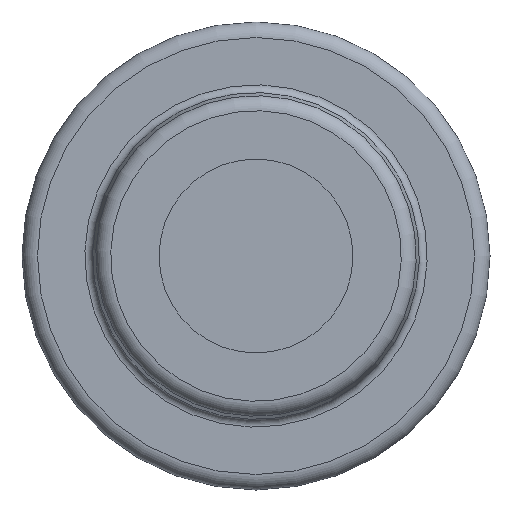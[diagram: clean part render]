
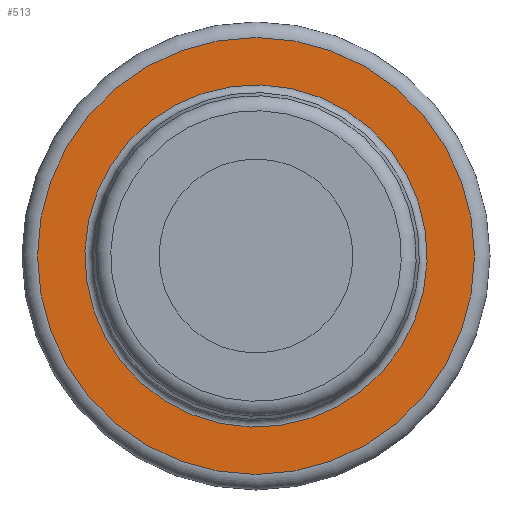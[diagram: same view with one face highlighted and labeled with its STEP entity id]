
A CAD part, left-side view. The second image highlights one B-rep face of the part: STEP entity #513.
In plain terms, the highlighted planar face has unit normal (-1, 0, 0).
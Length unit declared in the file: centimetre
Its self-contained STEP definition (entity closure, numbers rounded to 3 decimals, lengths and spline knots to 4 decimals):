
#143=PLANE('',#550);
#160=VERTEX_POINT('',#735);
#163=VERTEX_POINT('',#743);
#201=CIRCLE('',#546,2.1463);
#204=CIRCLE('',#551,1.6815);
#236=EDGE_CURVE('',#160,#160,#201,.T.);
#239=EDGE_CURVE('',#163,#163,#204,.T.);
#297=ORIENTED_EDGE('',*,*,#239,.F.);
#298=ORIENTED_EDGE('',*,*,#236,.F.);
#411=EDGE_LOOP('',(#297));
#412=EDGE_LOOP('',(#298));
#463=FACE_BOUND('',#411,.T.);
#464=FACE_BOUND('',#412,.T.);
#513=ADVANCED_FACE('',(#463,#464),#143,.T.);
#546=AXIS2_PLACEMENT_3D('',#734,#611,#612);
#550=AXIS2_PLACEMENT_3D('',#741,#619,$);
#551=AXIS2_PLACEMENT_3D('',#742,#620,#621);
#611=DIRECTION('',(1.,0.,0.));
#612=DIRECTION('',(0.,-2.146,0.));
#619=DIRECTION('',(-1.,0.,0.));
#620=DIRECTION('',(-1.,0.,0.));
#621=DIRECTION('',(0.,1.68,0.058));
#734=CARTESIAN_POINT('',(-0.2286,0.,0.));
#735=CARTESIAN_POINT('',(-0.2286,2.1463,0.));
#741=CARTESIAN_POINT('',(-0.2286,1.1494,0.));
#742=CARTESIAN_POINT('',(-0.2286,0.,0.));
#743=CARTESIAN_POINT('',(-0.2286,-1.6805,-0.0578));
